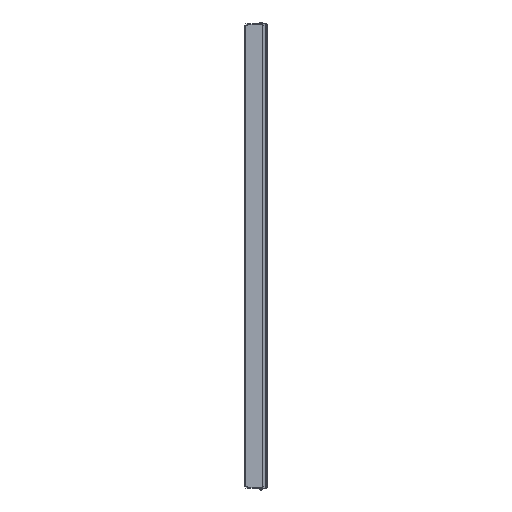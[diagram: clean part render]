
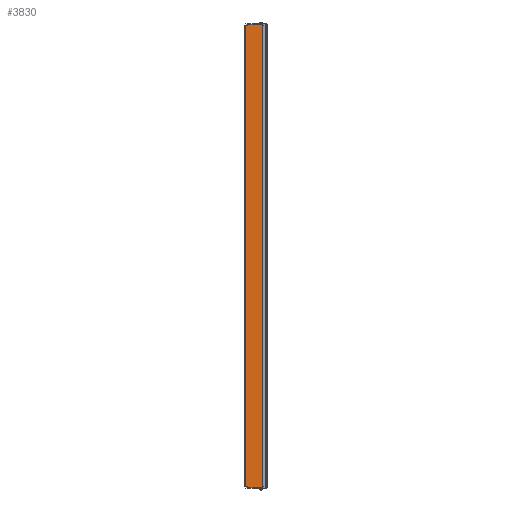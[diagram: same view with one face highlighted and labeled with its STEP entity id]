
A CAD part, left-side view. The second image highlights one B-rep face of the part: STEP entity #3830.
In plain terms, the highlighted planar face has unit normal (-1, 0, 0).
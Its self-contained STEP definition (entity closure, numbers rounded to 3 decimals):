
#466=DIRECTION('',(0.,1.,0.));
#467=VECTOR('',#466,3.303);
#468=CARTESIAN_POINT('',(-14.,13.197,274.5));
#469=LINE('',#468,#467);
#839=DIRECTION('',(0.,1.,0.));
#840=VECTOR('',#839,17.497);
#841=CARTESIAN_POINT('',(-14.,-4.3,275.5));
#842=LINE('',#841,#840);
#847=DIRECTION('',(0.,0.,1.));
#848=VECTOR('',#847,551.);
#849=CARTESIAN_POINT('',(-14.,-4.3,-275.5));
#850=LINE('',#849,#848);
#1202=DIRECTION('',(0.,0.,-1.));
#1203=VECTOR('',#1202,549.);
#1204=CARTESIAN_POINT('',(-14.,16.5,274.5));
#1205=LINE('',#1204,#1203);
#1206=DIRECTION('',(0.,0.,1.));
#1207=VECTOR('',#1206,1.);
#1208=CARTESIAN_POINT('',(-14.,13.197,-275.5));
#1209=LINE('',#1208,#1207);
#1210=DIRECTION('',(0.,1.,0.));
#1211=VECTOR('',#1210,3.303);
#1212=CARTESIAN_POINT('',(-14.,13.197,-274.5));
#1213=LINE('',#1212,#1211);
#1214=DIRECTION('',(0.,0.,1.));
#1215=VECTOR('',#1214,1.);
#1216=CARTESIAN_POINT('',(-14.,13.197,274.5));
#1217=LINE('',#1216,#1215);
#1222=DIRECTION('',(0.,-1.,0.));
#1223=VECTOR('',#1222,17.497);
#1224=CARTESIAN_POINT('',(-14.,13.197,-275.5));
#1225=LINE('',#1224,#1223);
#1810=CARTESIAN_POINT('',(-14.,16.5,-274.5));
#1811=VERTEX_POINT('',#1810);
#1820=CARTESIAN_POINT('',(-14.,16.5,274.5));
#1821=VERTEX_POINT('',#1820);
#2026=CARTESIAN_POINT('',(-14.,13.197,275.5));
#2027=VERTEX_POINT('',#2026);
#2052=CARTESIAN_POINT('',(-14.,-4.3,275.5));
#2053=VERTEX_POINT('',#2052);
#2098=CARTESIAN_POINT('',(-14.,13.197,274.5));
#2100=VERTEX_POINT('',#2098);
#2284=CARTESIAN_POINT('',(-14.,13.197,-275.5));
#2285=VERTEX_POINT('',#2284);
#2286=CARTESIAN_POINT('',(-14.,-4.3,-275.5));
#2287=VERTEX_POINT('',#2286);
#2328=CARTESIAN_POINT('',(-14.,13.197,-274.5));
#2329=VERTEX_POINT('',#2328);
#3813=CARTESIAN_POINT('',(-14.,16.5,-274.5));
#3814=DIRECTION('',(-1.,0.,0.));
#3815=DIRECTION('',(0.,-1.,0.));
#3816=AXIS2_PLACEMENT_3D('',#3813,#3814,#3815);
#3817=PLANE('',#3816);
#3818=ORIENTED_EDGE('',*,*,#3213,.F.);
#3820=ORIENTED_EDGE('',*,*,#3819,.F.);
#3822=ORIENTED_EDGE('',*,*,#3821,.T.);
#3823=ORIENTED_EDGE('',*,*,#2447,.T.);
#3824=ORIENTED_EDGE('',*,*,#3808,.F.);
#3825=ORIENTED_EDGE('',*,*,#2856,.F.);
#3826=ORIENTED_EDGE('',*,*,#3183,.T.);
#3827=ORIENTED_EDGE('',*,*,#3198,.F.);
#3828=EDGE_LOOP('',(#3818,#3820,#3822,#3823,#3824,#3825,#3826,#3827));
#3829=FACE_OUTER_BOUND('',#3828,.F.);
#2447=EDGE_CURVE('',#2329,#1811,#1213,.T.);
#2856=EDGE_CURVE('',#2100,#1821,#469,.T.);
#3183=EDGE_CURVE('',#2100,#2027,#1217,.T.);
#3198=EDGE_CURVE('',#2053,#2027,#842,.T.);
#3213=EDGE_CURVE('',#2287,#2053,#850,.T.);
#3808=EDGE_CURVE('',#1821,#1811,#1205,.T.);
#3819=EDGE_CURVE('',#2285,#2287,#1225,.T.);
#3821=EDGE_CURVE('',#2285,#2329,#1209,.T.);
#3830=ADVANCED_FACE('',(#3829),#3817,.T.);
